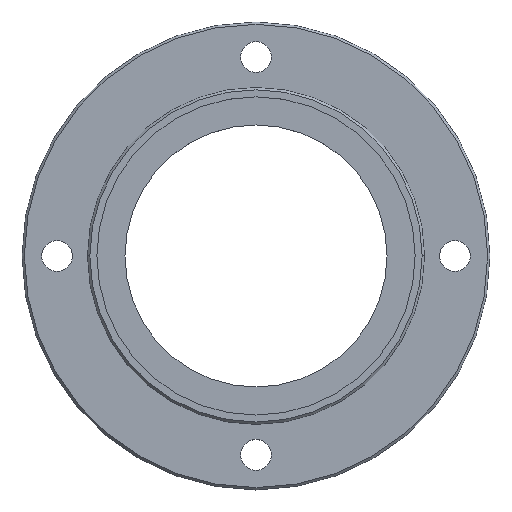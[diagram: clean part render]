
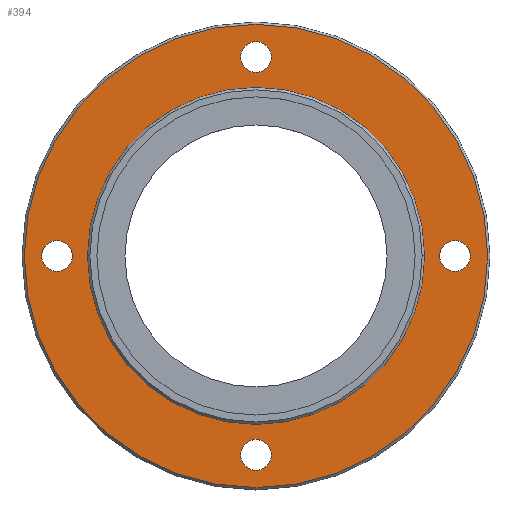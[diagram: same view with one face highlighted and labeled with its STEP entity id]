
A CAD part, top view. The second image highlights one B-rep face of the part: STEP entity #394.
In plain terms, the highlighted planar face has unit normal (0, 0, 1).
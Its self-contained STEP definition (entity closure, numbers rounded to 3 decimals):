
#1 = CIRCLE ( 'NONE', #921, 3.3 ) ;
#9 = EDGE_LOOP ( 'NONE', ( #119, #545 ) ) ;
#12 = DIRECTION ( 'NONE',  ( 0., 1., 0. ) ) ;
#18 = DIRECTION ( 'NONE',  ( 1., 0., 0. ) ) ;
#29 = CARTESIAN_POINT ( 'NONE',  ( 0., 0., 7. ) ) ;
#32 = CARTESIAN_POINT ( 'NONE',  ( 3.3, 42.5, 7. ) ) ;
#36 = CIRCLE ( 'NONE', #622, 3.3 ) ;
#42 = ORIENTED_EDGE ( 'NONE', *, *, #743, .F. ) ;
#71 = CARTESIAN_POINT ( 'NONE',  ( 0., 0., 7. ) ) ;
#74 = ORIENTED_EDGE ( 'NONE', *, *, #631, .F. ) ;
#102 = CARTESIAN_POINT ( 'NONE',  ( -42.5, 0., 7. ) ) ;
#103 = DIRECTION ( 'NONE',  ( 0., 0., 1. ) ) ;
#104 = CARTESIAN_POINT ( 'NONE',  ( -42.5, 3.3, 7. ) ) ;
#116 = VERTEX_POINT ( 'NONE', #273 ) ;
#119 = ORIENTED_EDGE ( 'NONE', *, *, #880, .F. ) ;
#122 = EDGE_CURVE ( 'NONE', #590, #739, #1, .T. ) ;
#141 = VERTEX_POINT ( 'NONE', #104 ) ;
#152 = DIRECTION ( 'NONE',  ( 0., 0., 1. ) ) ;
#169 = DIRECTION ( 'NONE',  ( 0., 0., 1. ) ) ;
#178 = CIRCLE ( 'NONE', #326, 3.3 ) ;
#184 = DIRECTION ( 'NONE',  ( 0., 0., 1. ) ) ;
#197 = DIRECTION ( 'NONE',  ( 0., 1., 0. ) ) ;
#218 = DIRECTION ( 'NONE',  ( 0., 0., 1. ) ) ;
#220 = EDGE_CURVE ( 'NONE', #116, #706, #1014, .T. ) ;
#231 = ORIENTED_EDGE ( 'NONE', *, *, #466, .F. ) ;
#235 = FACE_BOUND ( 'NONE', #305, .T. ) ;
#238 = PLANE ( 'NONE',  #713 ) ;
#245 = CIRCLE ( 'NONE', #383, 3.3 ) ;
#273 = CARTESIAN_POINT ( 'NONE',  ( -3.3, 42.5, 7. ) ) ;
#274 = ORIENTED_EDGE ( 'NONE', *, *, #220, .F. ) ;
#276 = DIRECTION ( 'NONE',  ( 0., -1., 0. ) ) ;
#280 = CIRCLE ( 'NONE', #870, 3.3 ) ;
#285 = DIRECTION ( 'NONE',  ( 0., 0., 1. ) ) ;
#286 = ORIENTED_EDGE ( 'NONE', *, *, #529, .T. ) ;
#305 = EDGE_LOOP ( 'NONE', ( #42, #74 ) ) ;
#307 = FACE_BOUND ( 'NONE', #959, .T. ) ;
#310 = CARTESIAN_POINT ( 'NONE',  ( 0., -42.5, 7. ) ) ;
#315 = DIRECTION ( 'NONE',  ( -1., 0., 0. ) ) ;
#322 = EDGE_LOOP ( 'NONE', ( #286, #454 ) ) ;
#326 = AXIS2_PLACEMENT_3D ( 'NONE', #619, #956, #197 ) ;
#346 = CIRCLE ( 'NONE', #962, 49.5 ) ;
#372 = EDGE_CURVE ( 'NONE', #1061, #1008, #36, .T. ) ;
#376 = EDGE_LOOP ( 'NONE', ( #274, #469 ) ) ;
#383 = AXIS2_PLACEMENT_3D ( 'NONE', #950, #424, #276 ) ;
#388 = DIRECTION ( 'NONE',  ( 0., 0., 1. ) ) ;
#394 = ADVANCED_FACE ( 'NONE', ( #567, #307, #993, #910, #1007, #235 ), #238, .T. ) ;
#400 = DIRECTION ( 'NONE',  ( -1., 0., 0. ) ) ;
#401 = CIRCLE ( 'NONE', #1034, 3.3 ) ;
#420 = AXIS2_PLACEMENT_3D ( 'NONE', #924, #388, #558 ) ;
#424 = DIRECTION ( 'NONE',  ( 0., 0., 1. ) ) ;
#432 = ORIENTED_EDGE ( 'NONE', *, *, #1006, .F. ) ;
#446 = CARTESIAN_POINT ( 'NONE',  ( -49.5, 0., 7. ) ) ;
#454 = ORIENTED_EDGE ( 'NONE', *, *, #734, .T. ) ;
#465 = VERTEX_POINT ( 'NONE', #1046 ) ;
#466 = EDGE_CURVE ( 'NONE', #465, #141, #178, .T. ) ;
#469 = ORIENTED_EDGE ( 'NONE', *, *, #499, .F. ) ;
#483 = CARTESIAN_POINT ( 'NONE',  ( 0., 0., 7. ) ) ;
#490 = CIRCLE ( 'NONE', #695, 36. ) ;
#499 = EDGE_CURVE ( 'NONE', #706, #116, #280, .T. ) ;
#507 = DIRECTION ( 'NONE',  ( 1., 0., 0. ) ) ;
#529 = EDGE_CURVE ( 'NONE', #649, #689, #346, .T. ) ;
#545 = ORIENTED_EDGE ( 'NONE', *, *, #372, .F. ) ;
#550 = EDGE_CURVE ( 'NONE', #739, #590, #245, .T. ) ;
#558 = DIRECTION ( 'NONE',  ( 1., 0., 0. ) ) ;
#567 = FACE_OUTER_BOUND ( 'NONE', #322, .T. ) ;
#581 = CIRCLE ( 'NONE', #1017, 49.5 ) ;
#590 = VERTEX_POINT ( 'NONE', #796 ) ;
#600 = CARTESIAN_POINT ( 'NONE',  ( 3.3, -42.5, 7. ) ) ;
#602 = DIRECTION ( 'NONE',  ( 0., 0., 1. ) ) ;
#610 = DIRECTION ( 'NONE',  ( 0., -1., 0. ) ) ;
#619 = CARTESIAN_POINT ( 'NONE',  ( -42.5, 0., 7. ) ) ;
#622 = AXIS2_PLACEMENT_3D ( 'NONE', #1081, #655, #400 ) ;
#631 = EDGE_CURVE ( 'NONE', #1049, #679, #490, .T. ) ;
#632 = CARTESIAN_POINT ( 'NONE',  ( 36., 0., 7. ) ) ;
#649 = VERTEX_POINT ( 'NONE', #446 ) ;
#655 = DIRECTION ( 'NONE',  ( 0., 0., 1. ) ) ;
#661 = DIRECTION ( 'NONE',  ( 0., 0., 1. ) ) ;
#674 = ORIENTED_EDGE ( 'NONE', *, *, #122, .F. ) ;
#679 = VERTEX_POINT ( 'NONE', #976 ) ;
#689 = VERTEX_POINT ( 'NONE', #896 ) ;
#695 = AXIS2_PLACEMENT_3D ( 'NONE', #810, #218, #1068 ) ;
#706 = VERTEX_POINT ( 'NONE', #32 ) ;
#713 = AXIS2_PLACEMENT_3D ( 'NONE', #71, #152, #926 ) ;
#723 = CARTESIAN_POINT ( 'NONE',  ( 0., 42.5, 7. ) ) ;
#734 = EDGE_CURVE ( 'NONE', #689, #649, #581, .T. ) ;
#739 = VERTEX_POINT ( 'NONE', #834 ) ;
#743 = EDGE_CURVE ( 'NONE', #679, #1049, #1090, .T. ) ;
#776 = CARTESIAN_POINT ( 'NONE',  ( 42.5, 0., 7. ) ) ;
#788 = CARTESIAN_POINT ( 'NONE',  ( 0., 42.5, 7. ) ) ;
#790 = ORIENTED_EDGE ( 'NONE', *, *, #550, .F. ) ;
#796 = CARTESIAN_POINT ( 'NONE',  ( 42.5, -3.3, 7. ) ) ;
#810 = CARTESIAN_POINT ( 'NONE',  ( 0., 0., 7. ) ) ;
#816 = AXIS2_PLACEMENT_3D ( 'NONE', #723, #285, #1064 ) ;
#834 = CARTESIAN_POINT ( 'NONE',  ( 42.5, 3.3, 7. ) ) ;
#842 = EDGE_LOOP ( 'NONE', ( #790, #674 ) ) ;
#870 = AXIS2_PLACEMENT_3D ( 'NONE', #788, #602, #507 ) ;
#879 = CARTESIAN_POINT ( 'NONE',  ( -3.3, -42.5, 7. ) ) ;
#880 = EDGE_CURVE ( 'NONE', #1008, #1061, #401, .T. ) ;
#896 = CARTESIAN_POINT ( 'NONE',  ( 49.5, 0., 7. ) ) ;
#910 = FACE_BOUND ( 'NONE', #842, .T. ) ;
#917 = DIRECTION ( 'NONE',  ( 1., 0., 0. ) ) ;
#921 = AXIS2_PLACEMENT_3D ( 'NONE', #776, #184, #610 ) ;
#924 = CARTESIAN_POINT ( 'NONE',  ( 0., 0., 7. ) ) ;
#926 = DIRECTION ( 'NONE',  ( 1., 0., 0. ) ) ;
#950 = CARTESIAN_POINT ( 'NONE',  ( 42.5, 0., 7. ) ) ;
#956 = DIRECTION ( 'NONE',  ( 0., 0., 1. ) ) ;
#959 = EDGE_LOOP ( 'NONE', ( #231, #432 ) ) ;
#962 = AXIS2_PLACEMENT_3D ( 'NONE', #29, #103, #18 ) ;
#976 = CARTESIAN_POINT ( 'NONE',  ( -36., 0., 7. ) ) ;
#983 = CIRCLE ( 'NONE', #1055, 3.3 ) ;
#993 = FACE_BOUND ( 'NONE', #9, .T. ) ;
#1006 = EDGE_CURVE ( 'NONE', #141, #465, #983, .T. ) ;
#1007 = FACE_BOUND ( 'NONE', #376, .T. ) ;
#1008 = VERTEX_POINT ( 'NONE', #600 ) ;
#1014 = CIRCLE ( 'NONE', #816, 3.3 ) ;
#1017 = AXIS2_PLACEMENT_3D ( 'NONE', #483, #1018, #917 ) ;
#1018 = DIRECTION ( 'NONE',  ( 0., 0., 1. ) ) ;
#1034 = AXIS2_PLACEMENT_3D ( 'NONE', #310, #661, #315 ) ;
#1046 = CARTESIAN_POINT ( 'NONE',  ( -42.5, -3.3, 7. ) ) ;
#1049 = VERTEX_POINT ( 'NONE', #632 ) ;
#1055 = AXIS2_PLACEMENT_3D ( 'NONE', #102, #169, #12 ) ;
#1061 = VERTEX_POINT ( 'NONE', #879 ) ;
#1064 = DIRECTION ( 'NONE',  ( 1., 0., 0. ) ) ;
#1068 = DIRECTION ( 'NONE',  ( 1., 0., 0. ) ) ;
#1081 = CARTESIAN_POINT ( 'NONE',  ( 0., -42.5, 7. ) ) ;
#1090 = CIRCLE ( 'NONE', #420, 36. ) ;
